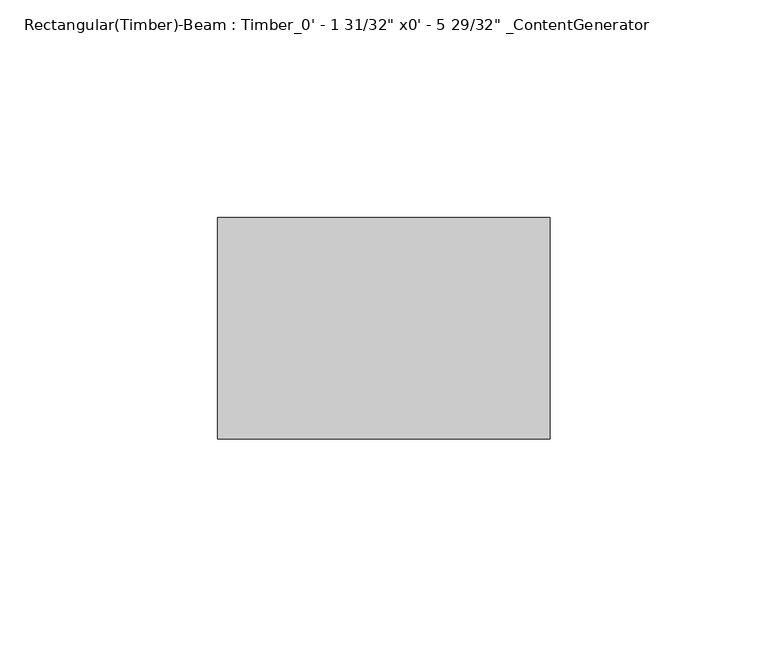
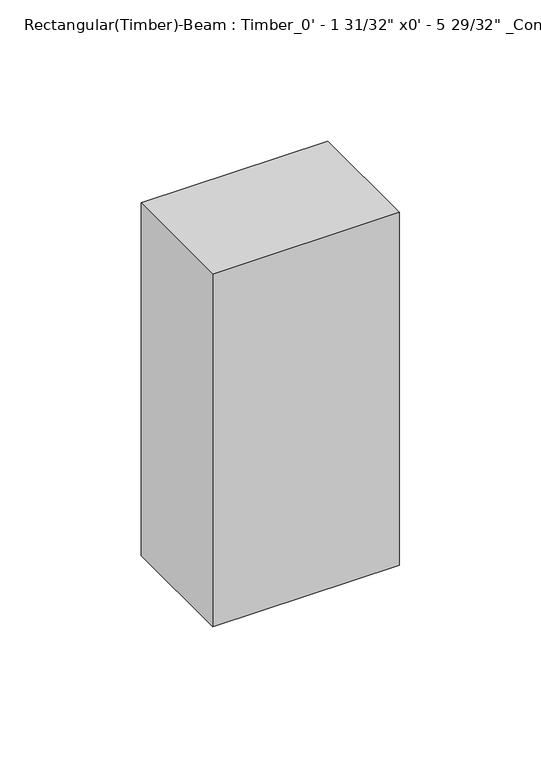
"""IFC4 building model written with IfcOpenShell, lengths in millimetres: beam geometry."""

from ifc_helpers import new_model, si_unit, frame, origin, place, context, project, spatial, polyline, outline, extrude, source, transform, mapped, element, save


def beam_752c70e0(model_context):
    return source(origin(), model_context, "Body", "SweptSolid", [
        extrude(outline(polyline([(25.4, 25.4), (25.4, -25.4), (-50.7999994, -25.4), (-50.7999994, 25.4), (25.4, 25.4)])), frame((0.0, 0.0, -76.2), z_axis=(0.0, 0.0, 1.0), x_axis=(1.0, 0.0, 0.0)), (0.0, 0.0, 1.0), 152.4),
    ])


if __name__ == "__main__":
    model = new_model("IFC4")
    model_context = context("Model", 3, world=origin())
    ifc_project = project(units=[si_unit("LENGTHUNIT", "METRE", prefix="MILLI")], contexts=[model_context])
    site = spatial("IfcSite", under=ifc_project)
    building = spatial("IfcBuilding", under=site)
    placement = place(None, origin())
    beam_shape = beam_752c70e0(model_context)
    element("IfcBeam", 1, ObjectType="Rectangular(Timber)-Beam : Timber_0' - 1 31/32\" x0' - 5 29/32\" _ContentGenerator", at=placement, inside=building, context=model_context, shape_type="MappedRepresentation", body=[
        mapped(beam_shape, transform((0.0, 0.0, 0.0), x_axis=(1.0, 0.0, 0.0), y_axis=(0.0, 1.0, 0.0), z_axis=(0.0, 0.0, 1.0))),
    ])
    save(model, "model.ifc")
